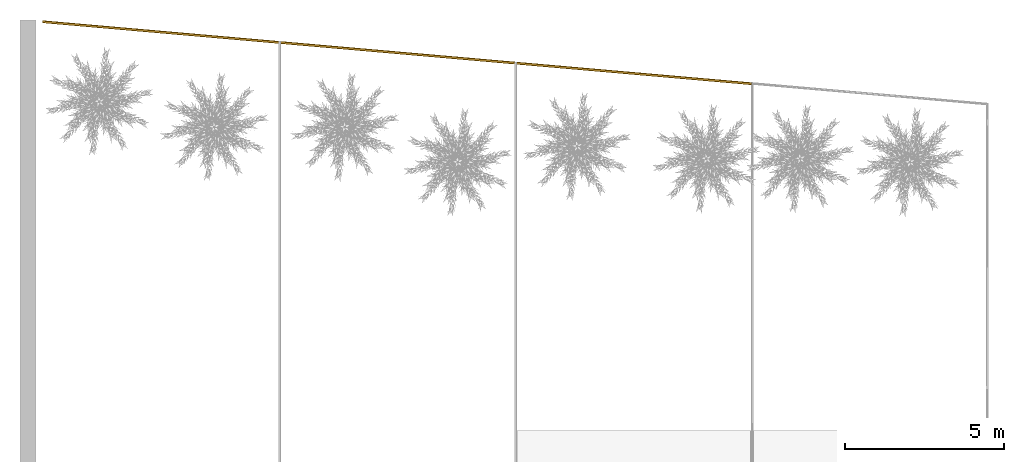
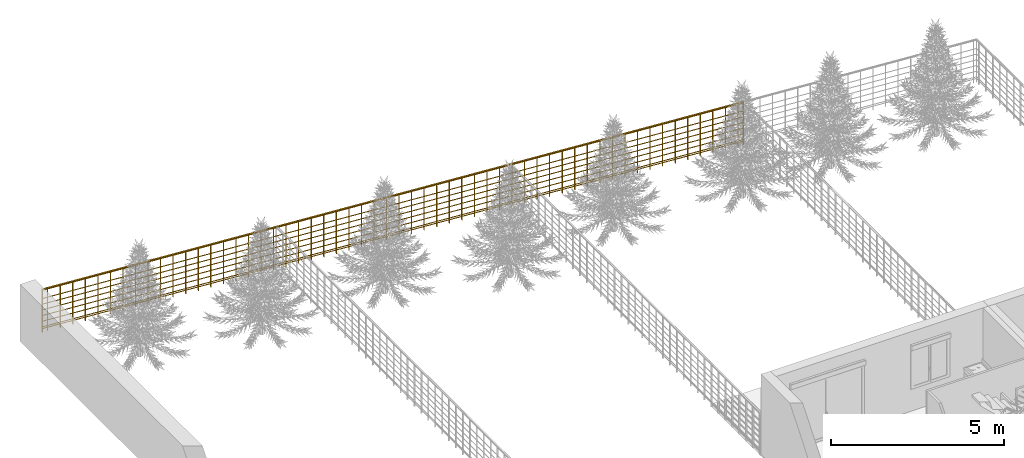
# One storey, part 29 of 33: 1 railing.
"""IFC2X3 building model written with IfcOpenShell, lengths in metres."""

from ifc_helpers import new_model, entity, si_unit, converted_unit, derived_unit, direction, frame, frame_2d, origin, origin_2d_with_axis, place, context, subcontext, project, spatial, polyline, rectangle, circle, outline, extrude, material, material_list, element, save


model = new_model("IFC2X3")

# Units and contexts
model_context = context("Model", 3, precision=1e-05, world=origin(), true_north=direction((6.12303176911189e-17, 1.0)))
context_of_model = context(None, 3, precision=1e-05, world=origin(), true_north=direction((6.12303176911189e-17, 1.0)))
body_context = subcontext(model_context, "Body", "Model", "MODEL_VIEW")
ifc_project = project(units=[si_unit("LENGTHUNIT", "METRE"), si_unit("AREAUNIT", "SQUARE_METRE"), si_unit("VOLUMEUNIT", "CUBIC_METRE"), converted_unit("PLANEANGLEUNIT", "DEGREE", entity("IfcRatioMeasure", 0.0174532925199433), si_unit("PLANEANGLEUNIT", "RADIAN"), dimensions=[0, 0, 0, 0, 0, 0, 0]), si_unit("MASSUNIT", "GRAM", prefix="KILO"), si_unit("TIMEUNIT", "SECOND"), si_unit("FREQUENCYUNIT", "HERTZ"), si_unit("THERMODYNAMICTEMPERATUREUNIT", "DEGREE_CELSIUS"), derived_unit("THERMALTRANSMITTANCEUNIT", [(si_unit("MASSUNIT", "GRAM", prefix="KILO"), 1), (si_unit("THERMODYNAMICTEMPERATUREUNIT", "KELVIN"), -1), (si_unit("TIMEUNIT", "SECOND"), -3)]), derived_unit("VOLUMETRICFLOWRATEUNIT", [(si_unit("LENGTHUNIT", "METRE"), 3), (si_unit("TIMEUNIT", "SECOND"), -1)]), si_unit("ELECTRICCURRENTUNIT", "AMPERE"), si_unit("ELECTRICVOLTAGEUNIT", "VOLT"), si_unit("POWERUNIT", "WATT"), si_unit("FORCEUNIT", "NEWTON", prefix="KILO"), si_unit("ILLUMINANCEUNIT", "LUX"), si_unit("LUMINOUSFLUXUNIT", "LUMEN"), si_unit("LUMINOUSINTENSITYUNIT", "CANDELA"), si_unit("PRESSUREUNIT", "PASCAL")], contexts=[model_context, context_of_model])

# Site, building, storey
site_placement = place(None, origin())
site = spatial("IfcSite", under=ifc_project, at=site_placement, Name="Surface", CompositionType="ELEMENT")
building_placement = place(site_placement, origin())
building = spatial("IfcBuilding", under=site, at=building_placement, CompositionType="ELEMENT")
storey_placement = place(building_placement, origin())
storey = spatial("IfcBuildingStorey", under=building, at=storey_placement, Name="Plan des fondations  Maisons 1 et 2", CompositionType="ELEMENT", Elevation=0.0)

# Railing
ifc_material_1 = material(Name="Bois")
ifc_material_2 = material(Name="Finition Peinture Grise")
ifc_material_list = material_list([ifc_material_1, ifc_material_2])
railing_placement = place(building_placement, origin())
element("IfcRailing", 1, at=railing_placement, inside=storey, material=ifc_material_list, Name="Garde-corps:Type Bateau 1,50 m", ObjectType="Garde-corps:Type Bateau 1,50 m", PredefinedType="NOTDEFINED", context=body_context, shape_type="SweptSolid", body=[
    extrude(rectangle(XDim=0.0499999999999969, YDim=0.0139999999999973, at=frame_2d((-3.78169717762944e-16, 4.3155583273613e-15), x_axis=(1.0, 0.0))), frame((61.640560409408, 108.276178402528, -0.1), z_axis=(0.0, 0.0, 1.0), x_axis=(-0.0871557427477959, -0.996194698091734, 0.0)), (0.0, 0.0, 1.0), 1.46984653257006),
    extrude(rectangle(XDim=0.0499999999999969, YDim=0.0139999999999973, at=frame_2d((-3.78169717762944e-16, 4.3155583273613e-15), x_axis=(1.0, 0.0))), frame((62.0390382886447, 108.241316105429, -0.1), z_axis=(0.0, 0.0, 1.0), x_axis=(-0.0871557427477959, -0.996194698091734, 0.0)), (0.0, 0.0, 1.0), 1.46984653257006),
    extrude(rectangle(XDim=0.0499999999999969, YDim=0.0139999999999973, at=frame_2d((-3.78169717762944e-16, 4.3155583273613e-15), x_axis=(1.0, 0.0))), frame((62.4375161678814, 108.20645380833, -0.1), z_axis=(0.0, 0.0, 1.0), x_axis=(-0.0871557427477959, -0.996194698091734, 0.0)), (0.0, 0.0, 1.0), 1.46984653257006),
    extrude(rectangle(XDim=0.0499999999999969, YDim=0.0139999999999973, at=frame_2d((-3.78169717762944e-16, 4.3155583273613e-15), x_axis=(1.0, 0.0))), frame((62.8359940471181, 108.171591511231, -0.1), z_axis=(0.0, 0.0, 1.0), x_axis=(-0.0871557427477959, -0.996194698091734, 0.0)), (0.0, 0.0, 1.0), 1.46984653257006),
    extrude(rectangle(XDim=0.0499999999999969, YDim=0.0139999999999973, at=frame_2d((-3.78169717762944e-16, 4.3155583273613e-15), x_axis=(1.0, 0.0))), frame((63.2344719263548, 108.136729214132, -0.1), z_axis=(0.0, 0.0, 1.0), x_axis=(-0.0871557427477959, -0.996194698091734, 0.0)), (0.0, 0.0, 1.0), 1.46984653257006),
    extrude(rectangle(XDim=0.0499999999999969, YDim=0.0139999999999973, at=frame_2d((3.78169717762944e-16, -4.3155583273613e-15), x_axis=(1.0, 0.0))), frame((63.6329498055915, 108.101866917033, -0.1), z_axis=(0.0, 0.0, 1.0), x_axis=(-0.0871557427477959, -0.996194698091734, 0.0)), (0.0, 0.0, 1.0), 1.46984653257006),
    extrude(rectangle(XDim=0.0499999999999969, YDim=0.0139999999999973, at=frame_2d((-3.78169717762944e-16, 4.3155583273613e-15), x_axis=(1.0, 0.0))), frame((64.0314276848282, 108.067004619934, -0.1), z_axis=(0.0, 0.0, 1.0), x_axis=(-0.0871557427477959, -0.996194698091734, 0.0)), (0.0, 0.0, 1.0), 1.46984653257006),
    extrude(rectangle(XDim=0.0499999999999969, YDim=0.0139999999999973, at=frame_2d((-1.76386683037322e-14, 2.80548154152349e-15), x_axis=(1.0, 0.0))), frame((64.4299055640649, 108.032142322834, -0.1), z_axis=(0.0, 0.0, 1.0), x_axis=(-0.0871557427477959, -0.996194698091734, 0.0)), (0.0, 0.0, 1.0), 1.46984653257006),
    extrude(rectangle(XDim=0.0499999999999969, YDim=0.0139999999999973, at=frame_2d((-3.78169717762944e-16, 4.3155583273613e-15), x_axis=(1.0, 0.0))), frame((64.8283834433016, 107.997280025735, -0.1), z_axis=(0.0, 0.0, 1.0), x_axis=(-0.0871557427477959, -0.996194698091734, 0.0)), (0.0, 0.0, 1.0), 1.46984653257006),
    extrude(rectangle(XDim=0.0499999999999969, YDim=0.0139999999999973, at=frame_2d((-3.78169717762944e-16, 4.3155583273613e-15), x_axis=(1.0, 0.0))), frame((65.2268613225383, 107.962417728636, -0.1), z_axis=(0.0, 0.0, 1.0), x_axis=(-0.0871557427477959, -0.996194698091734, 0.0)), (0.0, 0.0, 1.0), 1.46984653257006),
    extrude(rectangle(XDim=0.0499999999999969, YDim=0.0139999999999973, at=frame_2d((-3.78169717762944e-16, 4.3155583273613e-15), x_axis=(1.0, 0.0))), frame((65.625339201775, 107.927555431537, -0.1), z_axis=(0.0, 0.0, 1.0), x_axis=(-0.0871557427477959, -0.996194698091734, 0.0)), (0.0, 0.0, 1.0), 1.46984653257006),
    extrude(rectangle(XDim=0.0499999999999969, YDim=0.0139999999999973, at=frame_2d((-3.78169717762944e-16, 4.3155583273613e-15), x_axis=(1.0, 0.0))), frame((66.0238170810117, 107.892693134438, -0.1), z_axis=(0.0, 0.0, 1.0), x_axis=(-0.0871557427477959, -0.996194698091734, 0.0)), (0.0, 0.0, 1.0), 1.46984653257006),
    extrude(rectangle(XDim=0.0499999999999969, YDim=0.0139999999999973, at=frame_2d((-3.78169717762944e-16, 4.3155583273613e-15), x_axis=(1.0, 0.0))), frame((66.4222949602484, 107.857830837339, -0.1), z_axis=(0.0, 0.0, 1.0), x_axis=(-0.0871557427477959, -0.996194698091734, 0.0)), (0.0, 0.0, 1.0), 1.46984653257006),
    extrude(rectangle(XDim=0.0499999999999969, YDim=0.0139999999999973, at=frame_2d((-3.78169717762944e-16, 4.3155583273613e-15), x_axis=(1.0, 0.0))), frame((66.8207728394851, 107.82296854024, -0.1), z_axis=(0.0, 0.0, 1.0), x_axis=(-0.0871557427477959, -0.996194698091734, 0.0)), (0.0, 0.0, 1.0), 1.46984653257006),
    extrude(rectangle(XDim=0.0499999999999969, YDim=0.0139999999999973, at=frame_2d((-1.76386683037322e-14, 2.80548154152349e-15), x_axis=(1.0, 0.0))), frame((67.2192507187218, 107.788106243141, -0.1), z_axis=(0.0, 0.0, 1.0), x_axis=(-0.0871557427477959, -0.996194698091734, 0.0)), (0.0, 0.0, 1.0), 1.46984653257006),
    extrude(rectangle(XDim=0.0499999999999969, YDim=0.0139999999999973, at=frame_2d((-3.78169717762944e-16, 4.3155583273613e-15), x_axis=(1.0, 0.0))), frame((67.6177285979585, 107.753243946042, -0.1), z_axis=(0.0, 0.0, 1.0), x_axis=(-0.0871557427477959, -0.996194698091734, 0.0)), (0.0, 0.0, 1.0), 1.46984653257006),
    extrude(rectangle(XDim=0.0499999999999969, YDim=0.0139999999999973, at=frame_2d((-3.78169717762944e-16, 4.3155583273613e-15), x_axis=(1.0, 0.0))), frame((68.0162064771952, 107.718381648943, -0.1), z_axis=(0.0, 0.0, 1.0), x_axis=(-0.0871557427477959, -0.996194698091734, 0.0)), (0.0, 0.0, 1.0), 1.46984653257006),
    extrude(rectangle(XDim=0.0499999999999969, YDim=0.0139999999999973, at=frame_2d((3.78169717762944e-16, -4.3155583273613e-15), x_axis=(1.0, 0.0))), frame((68.4146843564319, 107.683519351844, -0.1), z_axis=(0.0, 0.0, 1.0), x_axis=(-0.0871557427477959, -0.996194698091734, 0.0)), (0.0, 0.0, 1.0), 1.46984653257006),
    extrude(rectangle(XDim=0.0499999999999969, YDim=0.0139999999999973, at=frame_2d((-3.78169717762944e-16, 4.3155583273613e-15), x_axis=(1.0, 0.0))), frame((68.8131622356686, 107.648657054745, -0.1), z_axis=(0.0, 0.0, 1.0), x_axis=(-0.0871557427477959, -0.996194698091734, 0.0)), (0.0, 0.0, 1.0), 1.46984653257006),
    extrude(rectangle(XDim=0.0499999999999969, YDim=0.0139999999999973, at=frame_2d((-3.78169717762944e-16, 4.3155583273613e-15), x_axis=(1.0, 0.0))), frame((69.2116401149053, 107.613794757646, -0.1), z_axis=(0.0, 0.0, 1.0), x_axis=(-0.0871557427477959, -0.996194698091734, 0.0)), (0.0, 0.0, 1.0), 1.46984653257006),
    extrude(rectangle(XDim=0.0499999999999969, YDim=0.0139999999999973, at=frame_2d((-3.78169717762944e-16, 4.3155583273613e-15), x_axis=(1.0, 0.0))), frame((69.610117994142, 107.578932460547, -0.1), z_axis=(0.0, 0.0, 1.0), x_axis=(-0.0871557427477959, -0.996194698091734, 0.0)), (0.0, 0.0, 1.0), 1.46984653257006),
    extrude(rectangle(XDim=0.0499999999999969, YDim=0.0139999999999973, at=frame_2d((-3.78169717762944e-16, 4.3155583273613e-15), x_axis=(1.0, 0.0))), frame((70.0085958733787, 107.544070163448, -0.1), z_axis=(0.0, 0.0, 1.0), x_axis=(-0.0871557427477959, -0.996194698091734, 0.0)), (0.0, 0.0, 1.0), 1.46984653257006),
    extrude(rectangle(XDim=0.0499999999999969, YDim=0.0139999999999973, at=frame_2d((-3.78169717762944e-16, 4.3155583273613e-15), x_axis=(1.0, 0.0))), frame((70.4070737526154, 107.509207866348, -0.1), z_axis=(0.0, 0.0, 1.0), x_axis=(-0.0871557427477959, -0.996194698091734, 0.0)), (0.0, 0.0, 1.0), 1.46984653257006),
    extrude(rectangle(XDim=0.0499999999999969, YDim=0.0139999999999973, at=frame_2d((-3.78169717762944e-16, 4.3155583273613e-15), x_axis=(1.0, 0.0))), frame((70.8055516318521, 107.474345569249, -0.1), z_axis=(0.0, 0.0, 1.0), x_axis=(-0.0871557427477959, -0.996194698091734, 0.0)), (0.0, 0.0, 1.0), 1.46984653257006),
    extrude(rectangle(XDim=0.0499999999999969, YDim=0.0139999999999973, at=frame_2d((3.78169717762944e-16, -4.3155583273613e-15), x_axis=(1.0, 0.0))), frame((71.2040295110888, 107.43948327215, -0.1), z_axis=(0.0, 0.0, 1.0), x_axis=(-0.0871557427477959, -0.996194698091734, 0.0)), (0.0, 0.0, 1.0), 1.46984653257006),
    extrude(rectangle(XDim=0.0499999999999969, YDim=0.0139999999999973, at=frame_2d((-3.78169717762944e-16, 4.3155583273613e-15), x_axis=(1.0, 0.0))), frame((71.6025073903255, 107.404620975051, -0.1), z_axis=(0.0, 0.0, 1.0), x_axis=(-0.0871557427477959, -0.996194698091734, 0.0)), (0.0, 0.0, 1.0), 1.46984653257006),
    extrude(rectangle(XDim=0.0499999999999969, YDim=0.0139999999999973, at=frame_2d((-3.78169717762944e-16, 4.3155583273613e-15), x_axis=(1.0, 0.0))), frame((72.0009852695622, 107.369758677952, -0.1), z_axis=(0.0, 0.0, 1.0), x_axis=(-0.0871557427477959, -0.996194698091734, 0.0)), (0.0, 0.0, 1.0), 1.46984653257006),
    extrude(rectangle(XDim=0.0499999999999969, YDim=0.0139999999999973, at=frame_2d((-3.78169717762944e-16, 4.3155583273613e-15), x_axis=(1.0, 0.0))), frame((72.3994631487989, 107.334896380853, -0.1), z_axis=(0.0, 0.0, 1.0), x_axis=(-0.0871557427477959, -0.996194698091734, 0.0)), (0.0, 0.0, 1.0), 1.46984653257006),
    extrude(rectangle(XDim=0.0499999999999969, YDim=0.0139999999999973, at=frame_2d((-3.78169717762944e-16, 4.3155583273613e-15), x_axis=(1.0, 0.0))), frame((72.7979410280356, 107.300034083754, -0.1), z_axis=(0.0, 0.0, 1.0), x_axis=(-0.0871557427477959, -0.996194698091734, 0.0)), (0.0, 0.0, 1.0), 1.46984653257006),
    extrude(rectangle(XDim=0.0499999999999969, YDim=0.0139999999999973, at=frame_2d((-1.76386683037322e-14, 2.80548154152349e-15), x_axis=(1.0, 0.0))), frame((73.1964189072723, 107.265171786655, -0.1), z_axis=(0.0, 0.0, 1.0), x_axis=(-0.0871557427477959, -0.996194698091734, 0.0)), (0.0, 0.0, 1.0), 1.46984653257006),
    extrude(rectangle(XDim=0.0499999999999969, YDim=0.0139999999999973, at=frame_2d((-3.78169717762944e-16, 4.3155583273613e-15), x_axis=(1.0, 0.0))), frame((73.594896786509, 107.230309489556, -0.1), z_axis=(0.0, 0.0, 1.0), x_axis=(-0.0871557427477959, -0.996194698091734, 0.0)), (0.0, 0.0, 1.0), 1.46984653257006),
    extrude(rectangle(XDim=0.0499999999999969, YDim=0.0139999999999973, at=frame_2d((-3.78169717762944e-16, 4.3155583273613e-15), x_axis=(1.0, 0.0))), frame((73.9933746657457, 107.195447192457, -0.1), z_axis=(0.0, 0.0, 1.0), x_axis=(-0.0871557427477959, -0.996194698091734, 0.0)), (0.0, 0.0, 1.0), 1.46984653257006),
    extrude(rectangle(XDim=0.0499999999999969, YDim=0.0139999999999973, at=frame_2d((-3.78169717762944e-16, 4.3155583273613e-15), x_axis=(1.0, 0.0))), frame((74.3918525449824, 107.160584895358, -0.1), z_axis=(0.0, 0.0, 1.0), x_axis=(-0.0871557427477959, -0.996194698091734, 0.0)), (0.0, 0.0, 1.0), 1.46984653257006),
    extrude(rectangle(XDim=0.0499999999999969, YDim=0.0139999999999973, at=frame_2d((-3.78169717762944e-16, 4.3155583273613e-15), x_axis=(1.0, 0.0))), frame((74.7903304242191, 107.125722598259, -0.1), z_axis=(0.0, 0.0, 1.0), x_axis=(-0.0871557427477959, -0.996194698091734, 0.0)), (0.0, 0.0, 1.0), 1.46984653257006),
    extrude(rectangle(XDim=0.0499999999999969, YDim=0.0139999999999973, at=frame_2d((-3.78169717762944e-16, 4.3155583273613e-15), x_axis=(1.0, 0.0))), frame((75.1888083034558, 107.09086030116, -0.1), z_axis=(0.0, 0.0, 1.0), x_axis=(-0.0871557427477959, -0.996194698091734, 0.0)), (0.0, 0.0, 1.0), 1.46984653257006),
    extrude(rectangle(XDim=0.0499999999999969, YDim=0.0139999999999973, at=frame_2d((-3.78169717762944e-16, 4.3155583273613e-15), x_axis=(1.0, 0.0))), frame((75.5872861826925, 107.055998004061, -0.1), z_axis=(0.0, 0.0, 1.0), x_axis=(-0.0871557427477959, -0.996194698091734, 0.0)), (0.0, 0.0, 1.0), 1.46984653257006),
    extrude(rectangle(XDim=0.0499999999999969, YDim=0.0139999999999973, at=frame_2d((-1.76386683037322e-14, 2.80548154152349e-15), x_axis=(1.0, 0.0))), frame((75.9857640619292, 107.021135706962, -0.1), z_axis=(0.0, 0.0, 1.0), x_axis=(-0.0871557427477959, -0.996194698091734, 0.0)), (0.0, 0.0, 1.0), 1.46984653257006),
    extrude(rectangle(XDim=0.0499999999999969, YDim=0.0139999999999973, at=frame_2d((-3.78169717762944e-16, 4.3155583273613e-15), x_axis=(1.0, 0.0))), frame((76.3842419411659, 106.986273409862, -0.1), z_axis=(0.0, 0.0, 1.0), x_axis=(-0.0871557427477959, -0.996194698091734, 0.0)), (0.0, 0.0, 1.0), 1.46984653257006),
    extrude(rectangle(XDim=0.0499999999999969, YDim=0.0139999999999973, at=frame_2d((-3.78169717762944e-16, 4.3155583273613e-15), x_axis=(1.0, 0.0))), frame((76.7827198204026, 106.951411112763, -0.1), z_axis=(0.0, 0.0, 1.0), x_axis=(-0.0871557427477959, -0.996194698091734, 0.0)), (0.0, 0.0, 1.0), 1.46984653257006),
    extrude(rectangle(XDim=0.0499999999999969, YDim=0.0139999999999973, at=frame_2d((-3.78169717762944e-16, 4.3155583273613e-15), x_axis=(1.0, 0.0))), frame((77.1811976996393, 106.916548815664, -0.1), z_axis=(0.0, 0.0, 1.0), x_axis=(-0.0871557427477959, -0.996194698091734, 0.0)), (0.0, 0.0, 1.0), 1.46984653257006),
    extrude(rectangle(XDim=0.0499999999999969, YDim=0.0139999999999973, at=frame_2d((-3.78169717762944e-16, 4.3155583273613e-15), x_axis=(1.0, 0.0))), frame((77.579675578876, 106.881686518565, -0.1), z_axis=(0.0, 0.0, 1.0), x_axis=(-0.0871557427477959, -0.996194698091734, 0.0)), (0.0, 0.0, 1.0), 1.46984653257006),
    extrude(rectangle(XDim=0.0499999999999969, YDim=0.0139999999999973, at=frame_2d((-3.78169717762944e-16, 4.3155583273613e-15), x_axis=(1.0, 0.0))), frame((77.9781534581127, 106.846824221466, -0.1), z_axis=(0.0, 0.0, 1.0), x_axis=(-0.0871557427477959, -0.996194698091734, 0.0)), (0.0, 0.0, 1.0), 1.46984653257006),
    extrude(rectangle(XDim=0.0499999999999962, YDim=0.0140000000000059, at=origin_2d_with_axis()), frame((78.3766313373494, 106.811961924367, -0.1), z_axis=(0.0, 0.0, 1.0), x_axis=(-0.087155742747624, -0.996194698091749, 0.0)), (0.0, 0.0, 1.0), 1.46984653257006),
    extrude(rectangle(XDim=0.0499999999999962, YDim=0.0140000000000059, at=frame_2d((1.5109441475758e-15, -1.72596312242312e-14), x_axis=(1.0, 0.0))), frame((78.7751092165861, 106.777099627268, -0.1), z_axis=(0.0, 0.0, 1.0), x_axis=(-0.087155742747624, -0.996194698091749, 0.0)), (0.0, 0.0, 1.0), 1.46984653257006),
    extrude(rectangle(XDim=0.0499999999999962, YDim=0.0140000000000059, at=frame_2d((-1.72604985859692e-14, -1.5105104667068e-15), x_axis=(1.0, 0.0))), frame((79.1735870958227, 106.742237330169, -0.1), z_axis=(0.0, 0.0, 1.0), x_axis=(-0.087155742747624, -0.996194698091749, 0.0)), (0.0, 0.0, 1.0), 1.46984653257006),
    extrude(rectangle(XDim=0.0499999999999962, YDim=0.0140000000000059, at=origin_2d_with_axis()), frame((79.5720649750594, 106.70737503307, -0.1), z_axis=(0.0, 0.0, 1.0), x_axis=(-0.087155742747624, -0.996194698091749, 0.0)), (0.0, 0.0, 1.0), 1.46984653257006),
    extrude(rectangle(XDim=0.0499999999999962, YDim=0.0140000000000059, at=origin_2d_with_axis()), frame((79.9705428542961, 106.672512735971, -0.1), z_axis=(0.0, 0.0, 1.0), x_axis=(-0.087155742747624, -0.996194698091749, 0.0)), (0.0, 0.0, 1.0), 1.46984653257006),
    extrude(rectangle(XDim=0.0499999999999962, YDim=0.0140000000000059, at=origin_2d_with_axis()), frame((80.3690207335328, 106.637650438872, -0.1), z_axis=(0.0, 0.0, 1.0), x_axis=(-0.087155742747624, -0.996194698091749, 0.0)), (0.0, 0.0, 1.0), 1.46984653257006),
    extrude(rectangle(XDim=0.0499999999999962, YDim=0.0140000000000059, at=frame_2d((1.5109441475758e-15, -1.72596312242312e-14), x_axis=(1.0, 0.0))), frame((80.7674986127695, 106.602788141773, -0.1), z_axis=(0.0, 0.0, 1.0), x_axis=(-0.087155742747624, -0.996194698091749, 0.0)), (0.0, 0.0, 1.0), 1.46984653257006),
    extrude(rectangle(XDim=0.0499999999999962, YDim=0.0140000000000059, at=origin_2d_with_axis()), frame((81.1659764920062, 106.567925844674, -0.1), z_axis=(0.0, 0.0, 1.0), x_axis=(-0.087155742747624, -0.996194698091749, 0.0)), (0.0, 0.0, 1.0), 1.46984653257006),
    extrude(rectangle(XDim=0.0499999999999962, YDim=0.0140000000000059, at=origin_2d_with_axis()), frame((81.5644543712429, 106.533063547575, -0.1), z_axis=(0.0, 0.0, 1.0), x_axis=(-0.087155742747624, -0.996194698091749, 0.0)), (0.0, 0.0, 1.0), 1.46984653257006),
    extrude(rectangle(XDim=0.0499999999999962, YDim=0.0140000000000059, at=frame_2d((-1.72604985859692e-14, -1.5105104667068e-15), x_axis=(1.0, 0.0))), frame((81.9629322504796, 106.498201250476, -0.1), z_axis=(0.0, 0.0, 1.0), x_axis=(-0.087155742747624, -0.996194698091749, 0.0)), (0.0, 0.0, 1.0), 1.46984653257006),
    extrude(rectangle(XDim=0.0499999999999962, YDim=0.0140000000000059, at=origin_2d_with_axis()), frame((82.3614101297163, 106.463338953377, -0.1), z_axis=(0.0, 0.0, 1.0), x_axis=(-0.087155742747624, -0.996194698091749, 0.0)), (0.0, 0.0, 1.0), 1.46984653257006),
    extrude(rectangle(XDim=0.0499999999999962, YDim=0.0140000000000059, at=origin_2d_with_axis()), frame((82.759888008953, 106.428476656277, -0.1), z_axis=(0.0, 0.0, 1.0), x_axis=(-0.087155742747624, -0.996194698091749, 0.0)), (0.0, 0.0, 1.0), 1.46984653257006),
    extrude(rectangle(XDim=0.0499999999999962, YDim=0.0140000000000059, at=origin_2d_with_axis()), frame((83.1583658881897, 106.393614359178, -0.1), z_axis=(0.0, 0.0, 1.0), x_axis=(-0.087155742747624, -0.996194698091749, 0.0)), (0.0, 0.0, 1.0), 1.46984653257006),
    extrude(rectangle(XDim=0.0499999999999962, YDim=0.0140000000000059, at=frame_2d((1.5109441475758e-15, -1.72596312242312e-14), x_axis=(1.0, 0.0))), frame((83.5568437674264, 106.358752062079, -0.1), z_axis=(0.0, 0.0, 1.0), x_axis=(-0.087155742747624, -0.996194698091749, 0.0)), (0.0, 0.0, 1.0), 1.46984653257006),
    extrude(rectangle(XDim=0.0499999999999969, YDim=0.0139999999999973, at=frame_2d((-3.78169717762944e-16, 4.3155583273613e-15), x_axis=(1.0, 0.0))), frame((61.4695325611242, 108.2911414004, -0.1), z_axis=(0.0, 0.0, 1.0), x_axis=(-0.0871557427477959, -0.996194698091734, 0.0)), (0.0, 0.0, 1.0), 1.46984653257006),
    extrude(rectangle(XDim=0.0499999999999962, YDim=0.0140000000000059, at=frame_2d((-1.72604985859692e-14, -1.5105104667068e-15), x_axis=(1.0, 0.0))), frame((83.7278716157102, 106.343789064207, -0.1), z_axis=(0.0, 0.0, 1.0), x_axis=(-0.087155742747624, -0.996194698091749, 0.0)), (0.0, 0.0, 1.0), 1.46984653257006),
    extrude(outline(polyline([(-0.0109067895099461, -0.0384843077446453), (0.00177588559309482, -0.0384843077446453), (0.0141514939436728, -0.0318300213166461), (0.0240801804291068, -0.0196720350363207), (0.0298451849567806, -0.00411257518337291), (0.0304496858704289, 0.0121579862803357), (0.025789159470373, 0.026326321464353), (0.0166694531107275, 0.0359425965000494), (0.0109067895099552, 0.0384843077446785), (-0.00177588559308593, 0.0384843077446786), (-0.0141514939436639, 0.0318300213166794), (-0.0240801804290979, 0.0196720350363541), (-0.0298451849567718, 0.00411257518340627), (-0.0304496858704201, -0.0121579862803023), (-0.0257891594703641, -0.0263263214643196), (-0.0166694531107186, -0.035942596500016), (-0.0109067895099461, -0.0384843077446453)])), frame((83.7389646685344, 106.342317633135, 1.4), z_axis=(-0.996194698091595, 0.0871557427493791, 0.0), x_axis=(0.0237647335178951, 0.271632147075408, 0.962107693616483)), (0.0, 0.0, 1.0), 22.3633622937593),
    extrude(circle(Radius=0.015, at=origin_2d_with_axis()), frame((83.7389646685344, 106.342317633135, 0.025), z_axis=(-0.996194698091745, 0.0871557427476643, 0.0), x_axis=(0.0871557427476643, 0.996194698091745, 0.0)), (0.0, 0.0, 1.0), 22.3633622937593),
    extrude(circle(Radius=0.015, at=origin_2d_with_axis()), frame((83.7389646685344, 106.342317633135, 1.085), z_axis=(-0.996194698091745, 0.0871557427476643, 0.0), x_axis=(0.0871557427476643, 0.996194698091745, 0.0)), (0.0, 0.0, 1.0), 22.3633622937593),
    extrude(circle(Radius=0.015, at=origin_2d_with_axis()), frame((83.7389646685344, 106.342317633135, 0.885), z_axis=(-0.996194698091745, 0.0871557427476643, 0.0), x_axis=(0.0871557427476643, 0.996194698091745, 0.0)), (0.0, 0.0, 1.0), 22.3633622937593),
    extrude(circle(Radius=0.015, at=origin_2d_with_axis()), frame((83.7389646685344, 106.342317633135, 0.685), z_axis=(-0.996194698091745, 0.0871557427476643, 0.0), x_axis=(0.0871557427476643, 0.996194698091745, 0.0)), (0.0, 0.0, 1.0), 22.3633622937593),
    extrude(circle(Radius=0.015, at=origin_2d_with_axis()), frame((83.7389646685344, 106.342317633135, 0.485), z_axis=(-0.996194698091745, 0.0871557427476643, 0.0), x_axis=(0.0871557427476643, 0.996194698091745, 0.0)), (0.0, 0.0, 1.0), 22.3633622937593),
    extrude(circle(Radius=0.015, at=origin_2d_with_axis()), frame((83.7389646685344, 106.342317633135, 0.285), z_axis=(-0.996194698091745, 0.0871557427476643, 0.0), x_axis=(0.0871557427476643, 0.996194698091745, 0.0)), (0.0, 0.0, 1.0), 22.3633622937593),
    extrude(circle(Radius=0.015, at=origin_2d_with_axis()), frame((83.7389646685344, 106.342317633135, 0.085), z_axis=(-0.996194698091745, 0.0871557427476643, 0.0), x_axis=(0.0871557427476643, 0.996194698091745, 0.0)), (0.0, 0.0, 1.0), 22.3633622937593),
])

save(model, "model.ifc")
